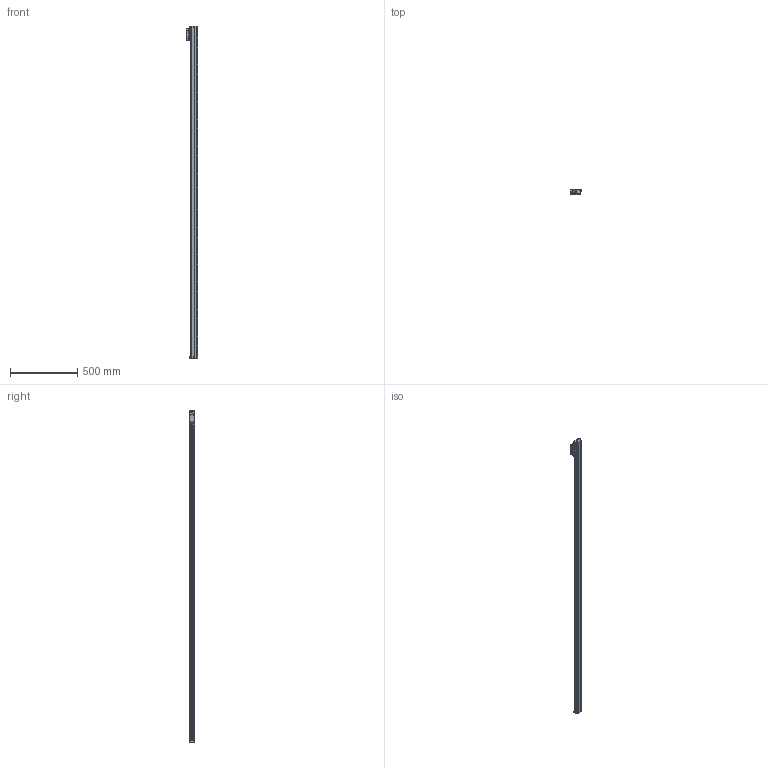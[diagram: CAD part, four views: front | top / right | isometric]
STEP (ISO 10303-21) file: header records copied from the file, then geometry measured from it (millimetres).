
FILE_DESCRIPTION(/* description */ (''),/* implementation_level */ '2;1');
FILE_NAME(/* name */ 'JC21A-2340-1.stp',/* time_stamp */ '2023-12-21T17:04:54+08:00',/* author */ (''),/* organization */ (''),/* preprocessor_version */ 'ST-DEVELOPER v14',/* originating_system */ 'SIEMENS PLM Software NX 8.0',/* authorisation */ '');
FILE_SCHEMA (('CONFIG_CONTROL_DESIGN'));
Length unit declared in the file: millimetre
Products named in the file (1): JC21A-2340-1
Bounding box: 87.5 x 37 x 2461 mm (x, y, z)
Volume: 3837668.8 mm3; surface area: 621062.1 mm2
Topology: 4 solids, 6 shells, 1333 faces, 3990 edges, 2657 vertices
Faces by surface type: plane 836, cylinder 465, cone 22, bspline 8, extrusion 2
Full cylindrical faces by diameter (mm): 2.5 x12, 3.3 x6, 3.7 x4, 4.2 x4, 5 x2, 6 x6, 6.6 x2, 6.8 x26, 7 x2, 13.2 x2
Entity records: 45909 total; most frequent: CARTESIAN_POINT 9351, ORIENTED_EDGE 7720, DIRECTION 7604, EDGE_CURVE 3860, VERTEX_POINT 2615, AXIS2_PLACEMENT_3D 2549, VECTOR 2506, LINE 2504
